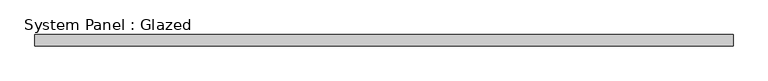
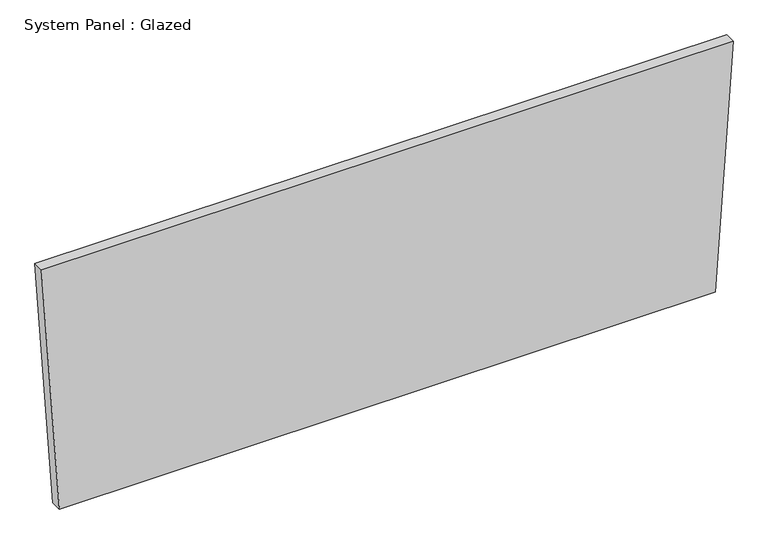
"""IFC4 building model written with IfcOpenShell, lengths in millimetres: plate geometry, System Panel : Glazed."""

import ifcopenshell
import ifcopenshell.guid

model = None  # the IFC model being written
_history = None  # IfcOwnerHistory: only IFC2X3 demands one
_inside = {}  # id of a spatial element -> (the spatial element, [elements in it])
_under = {}  # id of a project, library or spatial element -> (it, [spatial elements below it])
_declared = {}  # id of a project -> (the project, [libraries it declares])
_typed = {}  # id of a type object -> (the type object, [elements of that type])
_made_of = {}  # id of a material, layer set ... -> (it, [elements and type objects made of it])


def new_model(schema):
    """Start an empty IFC model of exactly this schema.

    Asked for "IFC4X3", IfcOpenShell would pick the latest addendum, in which some entities
    have other attributes; the version numbers below select the first issue.
    IFC2X3 requires an IfcOwnerHistory on every rooted entity: one is made here for all.
    """
    global model, _history
    if schema == "IFC4X3":
        model = ifcopenshell.file(schema_version=(4, 3, 0, 0))
    else:
        model = ifcopenshell.file(schema=schema)
    _inside.clear()
    _under.clear()
    _declared.clear()
    _typed.clear()
    _made_of.clear()
    _history = None
    if model.schema == "IFC2X3":
        org = make("IfcOrganization", Name="unknown")
        user = make(
            "IfcPersonAndOrganization",
            ThePerson=make("IfcPerson", FamilyName="unknown"),
            TheOrganization=org,
        )
        app = make(
            "IfcApplication",
            ApplicationDeveloper=org,
            Version="unknown",
            ApplicationFullName="unknown",
            ApplicationIdentifier="unknown",
        )
        _history = make(
            "IfcOwnerHistory",
            OwningUser=user,
            OwningApplication=app,
            ChangeAction="ADDED",
            CreationDate=0,
        )
    return model


def make(cls, **values):
    """One entity of the class cls with the attributes given. An attribute that is None is left unset."""
    return model.create_entity(
        cls, **{name: value for name, value in values.items() if value is not None}
    )


def rooted(cls, **values):
    """An entity with a GlobalId (a new one), such as an element, a storey or a relation."""
    return make(cls, GlobalId=ifcopenshell.guid.new(), OwnerHistory=_history, **values)


def si_unit(unit_type, name, prefix=None):
    """IfcSIUnit, for example si_unit("LENGTHUNIT", "METRE", prefix="MILLI")."""
    return make("IfcSIUnit", UnitType=unit_type, Prefix=prefix, Name=name)


def assignment(units):
    """IfcUnitAssignment: the units of a project."""
    return None if units is None else make("IfcUnitAssignment", Units=units)


def point(xyz):
    """IfcCartesianPoint."""
    return None if xyz is None else make("IfcCartesianPoint", Coordinates=xyz)


def direction(xyz):
    """IfcDirection."""
    return None if xyz is None else make("IfcDirection", DirectionRatios=xyz)


def frame(location, z_axis=None, x_axis=None):
    """IfcAxis2Placement3D, a coordinate frame: its origin and axes. An axis left out is left unset."""
    return make(
        "IfcAxis2Placement3D",
        Location=point(location),
        Axis=direction(z_axis),
        RefDirection=direction(x_axis),
    )


def origin():
    """The frame at (0, 0, 0) with its axes left unset."""
    return frame((0.0, 0.0, 0.0))


def place(relative_to, where):
    """IfcLocalPlacement: puts the frame where relative to a parent placement (None: the world)."""
    return make(
        "IfcLocalPlacement", PlacementRelTo=relative_to, RelativePlacement=where
    )


def context(
    kind, dimensions, precision=None, world=None, true_north=None, identifier=None
):
    """IfcGeometricRepresentationContext, for example the 3D "Model" context."""
    return make(
        "IfcGeometricRepresentationContext",
        ContextIdentifier=identifier,
        ContextType=kind,
        CoordinateSpaceDimension=dimensions,
        Precision=precision,
        WorldCoordinateSystem=world,
        TrueNorth=true_north,
    )


def project(units=None, contexts=None):
    """IfcProject with its units and contexts."""
    return rooted(
        "IfcProject",
        Name="project",
        RepresentationContexts=contexts,
        UnitsInContext=assignment(units),
    )


def spatial(cls, under=None, at=None, **own):
    """A site, building, storey or space (cls), placed at a placement, below another one or the project."""
    s = rooted(cls, ObjectPlacement=at, **own)
    if under is not None:
        _under.setdefault(under.id(), (under, []))[1].append(s)
    return s


def polyline(points):
    """IfcPolyline through the points."""
    return make("IfcPolyline", Points=[point(p) for p in points])


def outline(outer, holes=None, kind="AREA"):
    """IfcArbitraryClosedProfileDef: a profile drawn as a closed curve; with holes, ...WithVoids."""
    if holes is None:
        return make("IfcArbitraryClosedProfileDef", ProfileType=kind, OuterCurve=outer)
    return make(
        "IfcArbitraryProfileDefWithVoids",
        ProfileType=kind,
        OuterCurve=outer,
        InnerCurves=holes,
    )


def extrude(swept, where, along, depth):
    """IfcExtrudedAreaSolid: the profile swept, set in the frame where, extruded along a direction by depth."""
    return make(
        "IfcExtrudedAreaSolid",
        SweptArea=swept,
        Position=where,
        ExtrudedDirection=direction(along),
        Depth=depth,
    )


def shape(context_of_items, identifier, shape_type, items):
    """IfcShapeRepresentation: the items that make up one representation, for example the "Body"."""
    return make(
        "IfcShapeRepresentation",
        ContextOfItems=context_of_items,
        RepresentationIdentifier=identifier,
        RepresentationType=shape_type,
        Items=items,
    )


def source(mapping_origin, context_of_items, identifier, shape_type, items):
    """IfcRepresentationMap: a shape defined once, which mapped items show again and again."""
    return make(
        "IfcRepresentationMap",
        MappingOrigin=mapping_origin,
        MappedRepresentation=shape(context_of_items, identifier, shape_type, items),
    )


def transform(
    local_origin,
    x_axis=None,
    y_axis=None,
    z_axis=None,
    scale=None,
    scale2=None,
    scale3=None,
    uniform=True,
):
    """IfcCartesianTransformationOperator3D, or its non-uniform kind. x_axis, y_axis, z_axis: its Axis1, 2, 3."""
    if uniform:
        return make(
            "IfcCartesianTransformationOperator3D",
            Axis1=direction(x_axis),
            Axis2=direction(y_axis),
            LocalOrigin=point(local_origin),
            Scale=scale,
            Axis3=direction(z_axis),
        )
    return make(
        "IfcCartesianTransformationOperator3DnonUniform",
        Axis1=direction(x_axis),
        Axis2=direction(y_axis),
        LocalOrigin=point(local_origin),
        Scale=scale,
        Axis3=direction(z_axis),
        Scale2=scale2,
        Scale3=scale3,
    )


def mapped(mapping_source, mapping_target):
    """IfcMappedItem: shows the shape of a source again, moved by a transform."""
    return make(
        "IfcMappedItem", MappingSource=mapping_source, MappingTarget=mapping_target
    )


def made_of(thing, what):
    """Note that an element or type object is made of a material, layer set ...; save() writes the relation."""
    if what is not None:
        _made_of.setdefault(what.id(), (what, []))[1].append(thing)
    return thing


def element(
    cls,
    number,
    at=None,
    inside=None,
    cuts=None,
    type_object=None,
    material=None,
    context=None,
    identifier="Body",
    shape_type=None,
    held_by="IfcProductDefinitionShape",
    body=None,
    shapes=None,
    **own,
):
    """One element of the class cls, such as IfcWall. Its Tag is "e" and its number.

    at: its placement. inside: the storey or other place that contains it. cuts: it is an
    opening in that element (IfcRelVoidsElement). A single representation is given by context,
    identifier, shape_type and body (its items); several are given by shapes. held_by: the class
    of the entity that holds the representations. save() writes the other relations.
    """
    e = rooted(cls, Tag="e%d" % number, ObjectPlacement=at, **own)
    if body is not None:
        shapes = [shape(context, identifier, shape_type, body)]
    if shapes is not None:
        e.Representation = make(held_by, Representations=shapes)
    if inside is not None:
        _inside.setdefault(inside.id(), (inside, []))[1].append(e)
    if cuts is not None:
        rooted(
            "IfcRelVoidsElement", RelatingBuildingElement=cuts, RelatedOpeningElement=e
        )
    if type_object is not None:
        _typed.setdefault(type_object.id(), (type_object, []))[1].append(e)
    return made_of(e, material)


def aggregate(whole, parts):
    """IfcRelAggregates: a whole, such as a stair, and the parts it consists of."""
    return rooted("IfcRelAggregates", RelatingObject=whole, RelatedObjects=parts)


def save(model, path):
    """Write the relations noted so far, then the file.

    IfcRelAggregates (storeys below a building ...), IfcRelContainedInSpatialStructure (elements
    in a storey), IfcRelDefinesByType, IfcRelAssociatesMaterial and IfcRelDeclares: one each for
    every whole, place, type object, material and project.
    """
    for whole, parts in _under.values():
        aggregate(whole, parts)
    for where, things in _inside.values():
        rooted(
            "IfcRelContainedInSpatialStructure",
            RelatedElements=things,
            RelatingStructure=where,
        )
    for kind, things in _typed.values():
        rooted("IfcRelDefinesByType", RelatedObjects=things, RelatingType=kind)
    for what, things in _made_of.values():
        rooted("IfcRelAssociatesMaterial", RelatedObjects=things, RelatingMaterial=what)
    for by, libraries in _declared.values():
        rooted("IfcRelDeclares", RelatingContext=by, RelatedDefinitions=libraries)
    model.write(path)


def system_panel_glazed_66eabb40(model_context):
    return source(origin(), model_context, "Body", "SweptSolid", [
        extrude(outline(polyline([(0.0, -737.796167), (0.0, 737.796167), (582.7548153, 777.9949885), (582.7548153, -777.9949885), (0.0, -737.796167)])), frame((0.0, 19.05, 0.0), z_axis=(0.0, 1.0, 0.0), x_axis=(0.0, 0.0, 1.0)), (0.0, 0.0, 1.0), 25.4),
    ])


if __name__ == "__main__":
    model = new_model("IFC4")
    model_context = context("Model", 3, world=origin())
    ifc_project = project(units=[si_unit("LENGTHUNIT", "METRE", prefix="MILLI")], contexts=[model_context])
    site = spatial("IfcSite", under=ifc_project)
    building = spatial("IfcBuilding", under=site)
    placement = place(None, origin())
    system_panel_glazed_shape = system_panel_glazed_66eabb40(model_context)
    element("IfcPlate", 1, ObjectType="System Panel : Glazed", at=placement, inside=building, context=model_context, shape_type="MappedRepresentation", body=[
        mapped(system_panel_glazed_shape, transform((0.0, 0.0, 0.0), x_axis=(1.0, 0.0, 0.0), y_axis=(0.0, 1.0, 0.0), z_axis=(0.0, 0.0, 1.0))),
    ])
    save(model, "model.ifc")
